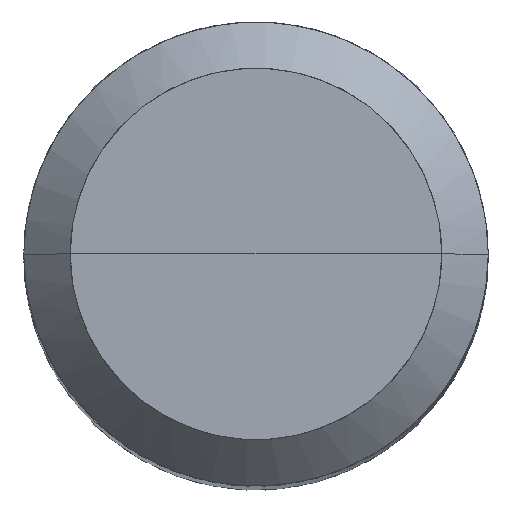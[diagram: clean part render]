
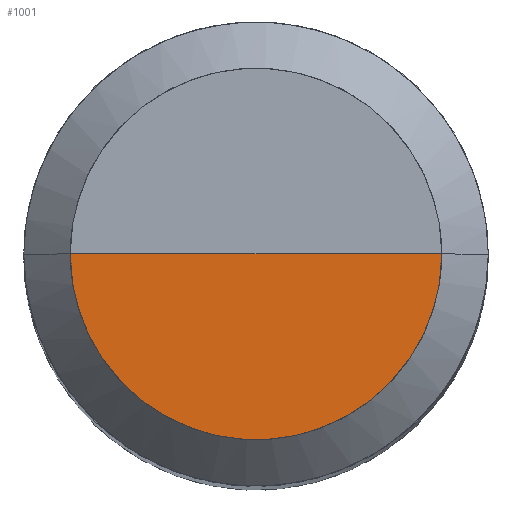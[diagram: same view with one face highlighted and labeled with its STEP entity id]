
A CAD part, top view. The second image highlights one B-rep face of the part: STEP entity #1001.
In plain terms, the highlighted free-form (B-spline) face has degree [1, 2] with [2, 5] control points.
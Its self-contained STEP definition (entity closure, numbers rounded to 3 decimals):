
#642=CARTESIAN_POINT('',(4.0,0.0,48.93));
#646=CARTESIAN_POINT('',(-4.0,0.0,48.93));
#647=CARTESIAN_POINT('',(0.0,0.0,48.93));
#660=CARTESIAN_POINT('',(-4.0,-4.0,48.93));
#661=CARTESIAN_POINT('',(0.0,-4.0,48.93));
#662=CARTESIAN_POINT('',(4.0,-4.0,48.93));
#986=(
BOUNDED_SURFACE()
B_SPLINE_SURFACE(1,2,(
(#646,#660,#661,#662,#642),
(#647,#647,#647,#647,#647)
), .UNSPECIFIED.,.F.,.F.,.F.)
B_SPLINE_SURFACE_WITH_KNOTS((2,2),(3,2,3),(
0.0,1.0),(
0.0,0.5,1.0), .UNSPECIFIED.)
GEOMETRIC_REPRESENTATION_ITEM()
RATIONAL_B_SPLINE_SURFACE(((1.0,0.707,1.0,0.707,1.0),
(1.0,0.707,1.0,0.707,1.0)
))
REPRESENTATION_ITEM('')
SURFACE()
);
#987=(
BOUNDED_CURVE()
B_SPLINE_CURVE(2,(#642,#662,#661,#660,#646),.UNSPECIFIED.,.F.,.F.)
B_SPLINE_CURVE_WITH_KNOTS((3,2,3),
(0.0,0.5,1.0),.UNSPECIFIED.)
CURVE()
GEOMETRIC_REPRESENTATION_ITEM()
RATIONAL_B_SPLINE_CURVE((1.0,0.707,1.0,0.707,1.0))
REPRESENTATION_ITEM('')
);
#988=(
BOUNDED_CURVE()
B_SPLINE_CURVE(1,(#646,#647),.UNSPECIFIED.,.F.,.F.)
B_SPLINE_CURVE_WITH_KNOTS((2,2),
(0.0,1.0),.UNSPECIFIED.)
CURVE()
GEOMETRIC_REPRESENTATION_ITEM()
RATIONAL_B_SPLINE_CURVE((1.0,1.0))
REPRESENTATION_ITEM('')
);
#989=(
BOUNDED_CURVE()
B_SPLINE_CURVE(1,(#647,#642),.UNSPECIFIED.,.F.,.F.)
B_SPLINE_CURVE_WITH_KNOTS((2,2),
(0.0,1.0),.UNSPECIFIED.)
CURVE()
GEOMETRIC_REPRESENTATION_ITEM()
RATIONAL_B_SPLINE_CURVE((1.0,1.0))
REPRESENTATION_ITEM('')
);
#990=VERTEX_POINT('',#642);
#991=VERTEX_POINT('',#646);
#992=VERTEX_POINT('',#647);
#993=EDGE_CURVE('',#990,#991,#987,.T.);
#994=EDGE_CURVE('',#991,#992,#988,.T.);
#995=EDGE_CURVE('',#992,#990,#989,.T.);
#996=ORIENTED_EDGE('',*,*,#993,.T.);
#997=ORIENTED_EDGE('',*,*,#994,.T.);
#998=ORIENTED_EDGE('',*,*,#995,.T.);
#999=EDGE_LOOP('',(#996,#997,#998));
#1000=FACE_OUTER_BOUND('',#999,.T.);
#1001=ADVANCED_FACE('',(#1000),#986,.T.);
